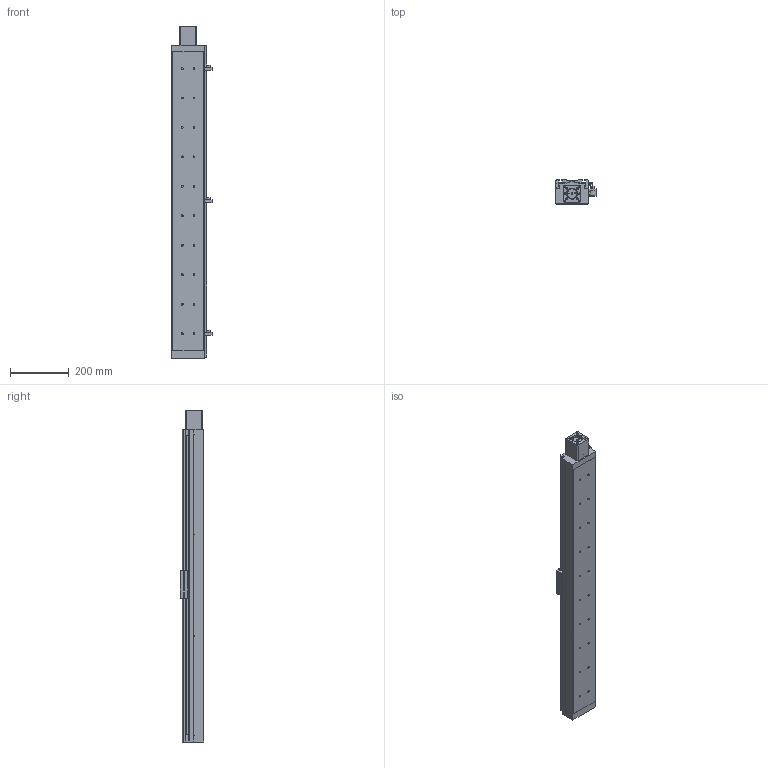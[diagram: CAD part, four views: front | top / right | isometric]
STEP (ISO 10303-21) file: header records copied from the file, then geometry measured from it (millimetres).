
FILE_DESCRIPTION((''),'2;1');
FILE_NAME('E:\libraries\UIA actuator library 2009\standard actuator\UIA110R12(15)DC\UIA110R12(15)DC-ball screw dia.20\UIA110R12(15)DC-_ _ _-R20_ _-M23 step file 20Apr16\UIA110R12(15)DC-900-R20_ _-M23-P13-C10-S.stp','2016-04-21T16:28:04',('h029'),(''),'Autodesk Inventor 11','Autodesk Inventor 11','');
FILE_SCHEMA(('AUTOMOTIVE_DESIGN { 1 0 10303 214 1 1 1 1 }'));
Length unit declared in the file: millimetre
Products named in the file (10): UIA110R12(15)DC-900, ball screw dia.20; body, UIA110R12(15)DC-900,ball screw dia.20; Carriage, UIA110R12(15)DC; Sen Switch, UIA110R12(15)DC; sensor rail, UIA110R12(15)DC-900; SOH-32C; SOH-32C-3; SOH-32C-1; SOH-32C-2; M23 motor mount
Assembly tree (9 placements, depth 3):
  UIA110R12(15)DC-900, ball screw dia.20
    body, UIA110R12(15)DC-900,ball screw dia.20
    Carriage, UIA110R12(15)DC
    Sen Switch, UIA110R12(15)DC
    sensor rail, UIA110R12(15)DC-900
    SOH-32C
      SOH-32C-3
      SOH-32C-1
      SOH-32C-2
    M23 motor mount
Bounding box: 136.5 x 81 x 1127 mm (x, y, z)
Volume: 8035398 mm3; surface area: 623975.4 mm2
Topology: 8 solids, 8 shells, 661 faces, 1752 edges, 1149 vertices
Faces by surface type: plane 419, cylinder 140, bspline 83, cone 19
Full cylindrical faces by diameter (mm): 2.459 x4, 3.242 x4, 4 x6, 4.5 x4, 5.5 x3, 6.35 x1, 6.5 x20, 7.5 x4, 9.5 x6, 10 x2, 10.5 x20, 12 x1, 25 x1, 32 x3, 37 x1, 38.1 x1, 42 x1, 42.01 x1, 43.5 x1
Entity records: 20900 total; most frequent: CARTESIAN_POINT 5235, DIRECTION 3159, ORIENTED_EDGE 3002, EDGE_CURVE 1501, AXIS2_PLACEMENT_3D 1078, VERTEX_POINT 1072, VECTOR 1003, LINE 1003
